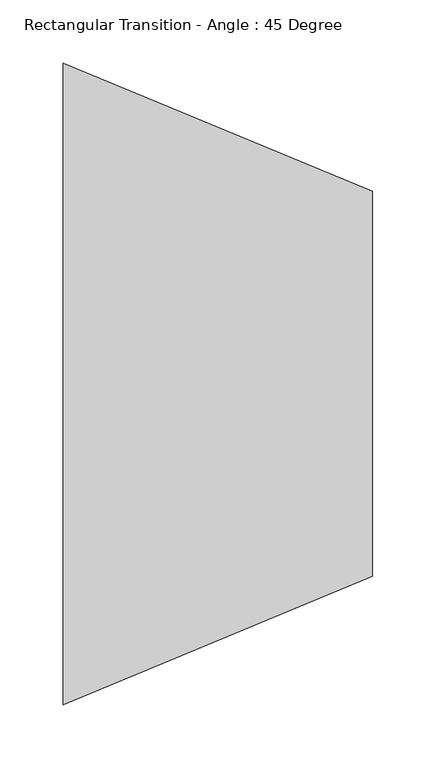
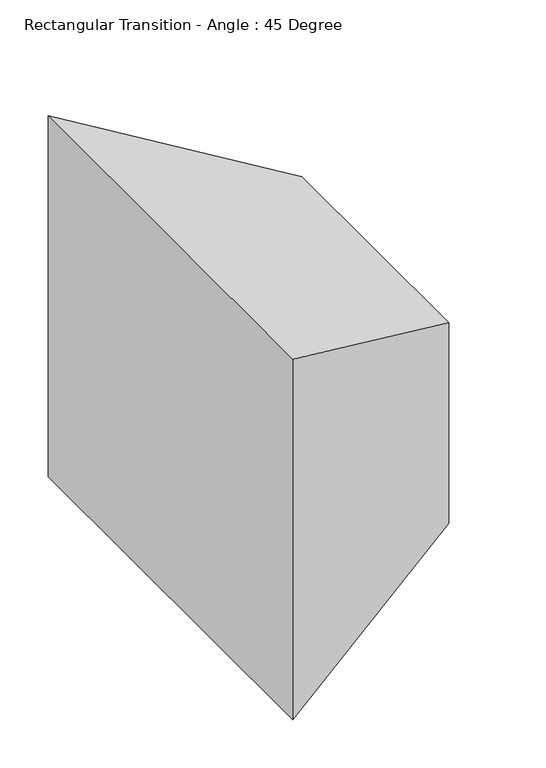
"""IFC4 building model written with IfcOpenShell, lengths in millimetres: duct fitting geometry, Rectangular Transition - Angle : 45 Degree."""

from ifc_helpers import new_model, si_unit, origin, place, context, project, spatial, faceted_brep, source, transform, mapped, element, save


def rectangular_transition_angle_45_degree_766f88a8(model_context):
    return source(origin(), model_context, "Body", "Brep", [
        faceted_brep([(245.2840979, -152.4, 127.0), (245.2840979, -152.4, -127.0), (245.2840979, 152.4, -127.0), (245.2840979, 152.4, 127.0), (0.0, -254.0, 228.6), (0.0, 254.0, 228.6), (0.0, 254.0, -228.6), (0.0, -254.0, -228.6)], [[[0, 1, 2, 3]], [[4, 5, 6, 7]], [[4, 7, 1, 0]], [[7, 6, 2, 1]], [[6, 5, 3, 2]], [[5, 4, 0, 3]]]),
    ])


if __name__ == "__main__":
    model = new_model("IFC4")
    model_context = context("Model", 3, world=origin())
    ifc_project = project(units=[si_unit("LENGTHUNIT", "METRE", prefix="MILLI")], contexts=[model_context])
    site = spatial("IfcSite", under=ifc_project)
    building = spatial("IfcBuilding", under=site)
    placement = place(None, origin())
    rectangular_transition_angle_45_degree_shape = rectangular_transition_angle_45_degree_766f88a8(model_context)
    element("IfcDuctFitting", 1, ObjectType="Rectangular Transition - Angle : 45 Degree", at=placement, inside=building, context=model_context, shape_type="MappedRepresentation", body=[
        mapped(rectangular_transition_angle_45_degree_shape, transform((0.0, 0.0, 0.0), x_axis=(1.0, 0.0, 0.0), y_axis=(0.0, 1.0, 0.0), z_axis=(0.0, 0.0, 1.0))),
    ])
    save(model, "model.ifc")
